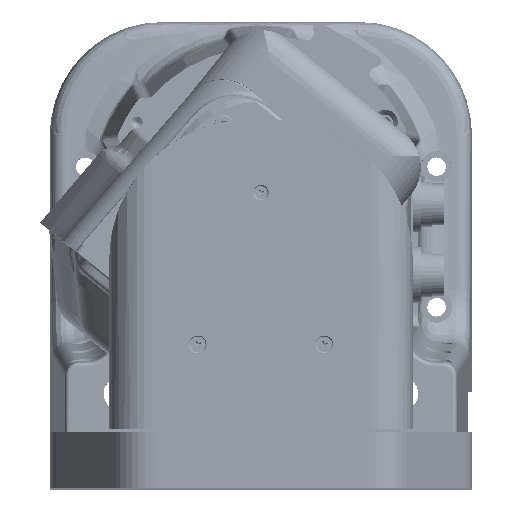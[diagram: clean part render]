
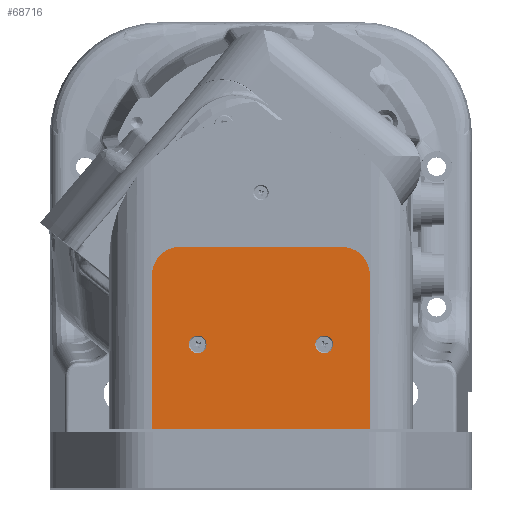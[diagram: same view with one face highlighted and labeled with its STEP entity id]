
A CAD part, top view. The second image highlights one B-rep face of the part: STEP entity #68716.
In plain terms, the highlighted planar face has unit normal (0, 0, 1) as drawn and (0, 0, -1) by its records, which use the part's own axes.
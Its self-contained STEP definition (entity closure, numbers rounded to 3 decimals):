
#40960 = AXIS2_PLACEMENT_3D ( 'NONE', #77332, #77333, #77334 ) ;
#40963 = AXIS2_PLACEMENT_3D ( 'NONE', #77389, #77390, #77391 ) ;
#40966 = AXIS2_PLACEMENT_3D ( 'NONE', #77454, #77455, #77456 ) ;
#40968 = AXIS2_PLACEMENT_3D ( 'NONE', #77486, #77487, #77488 ) ;
#40969 = AXIS2_PLACEMENT_3D ( 'NONE', #77513, #77514, #77515 ) ;
#40970 = AXIS2_PLACEMENT_3D ( 'NONE', #77518, #77519, #77520 ) ;
#63174 = CARTESIAN_POINT ( 'NONE',  ( 19.35, -54., -302.5 ) ) ;
#63198 = CARTESIAN_POINT ( 'NONE',  ( 25.65, -54., -302.5 ) ) ;
#63265 = CARTESIAN_POINT ( 'NONE',  ( 28.75, -19.3, -302.5 ) ) ;
#63365 = CARTESIAN_POINT ( 'NONE',  ( -19.35, -54., -302.5 ) ) ;
#63373 = CARTESIAN_POINT ( 'NONE',  ( -38.75, -29.3, -302.5 ) ) ;
#63513 = CARTESIAN_POINT ( 'NONE',  ( -25.65, -54., -302.5 ) ) ;
#63743 = CARTESIAN_POINT ( 'NONE',  ( -28.75, -19.3, -302.5 ) ) ;
#63839 = CARTESIAN_POINT ( 'NONE',  ( 38.75, -84., -302.5 ) ) ;
#63848 = CARTESIAN_POINT ( 'NONE',  ( -38.75, -84., -302.5 ) ) ;
#64116 = CARTESIAN_POINT ( 'NONE',  ( 38.75, -29.3, -302.5 ) ) ;
#68716 = ADVANCED_FACE ( 'NONE', ( #107296, #107298, #107300 ), #105350, .F. ) ;
#70262 = EDGE_CURVE ( 'NONE', #74980, #75075, #71709, .T. ) ;
#70276 = EDGE_CURVE ( 'NONE', #74622, #74581, #71724, .T. ) ;
#70290 = EDGE_CURVE ( 'NONE', #75143, #74988, #71741, .T. ) ;
#70297 = EDGE_CURVE ( 'NONE', #74988, #75112, #71751, .T. ) ;
#70303 = EDGE_CURVE ( 'NONE', #75112, #74712, #71761, .T. ) ;
#70309 = EDGE_CURVE ( 'NONE', #74712, #75208, #71767, .T. ) ;
#70315 = EDGE_CURVE ( 'NONE', #75208, #75140, #71777, .T. ) ;
#70319 = EDGE_CURVE ( 'NONE', #75140, #75143, #71785, .T. ) ;
#70321 = EDGE_CURVE ( 'NONE', #75075, #74980, #71788, .T. ) ;
#70323 = EDGE_CURVE ( 'NONE', #74581, #74622, #71790, .T. ) ;
#71709 = CIRCLE ( 'NONE', #40960, 3.15 ) ;
#71724 = CIRCLE ( 'NONE', #40963, 3.15 ) ;
#71741 = LINE ( 'NONE', #77435, #71742 ) ;
#71742 = VECTOR ( 'NONE', #77436, 1000. ) ;
#71751 = CIRCLE ( 'NONE', #40966, 10. ) ;
#71761 = LINE ( 'NONE', #77467, #71762 ) ;
#71762 = VECTOR ( 'NONE', #77468, 1000. ) ;
#71767 = CIRCLE ( 'NONE', #40968, 10. ) ;
#71777 = LINE ( 'NONE', #77499, #71778 ) ;
#71778 = VECTOR ( 'NONE', #77500, 1000. ) ;
#71785 = LINE ( 'NONE', #77507, #71786 ) ;
#71786 = VECTOR ( 'NONE', #77508, 1000. ) ;
#71788 = CIRCLE ( 'NONE', #40969, 3.15 ) ;
#71790 = CIRCLE ( 'NONE', #40970, 3.15 ) ;
#74581 = VERTEX_POINT ( 'NONE', #63174 ) ;
#74622 = VERTEX_POINT ( 'NONE', #63198 ) ;
#74712 = VERTEX_POINT ( 'NONE', #63265 ) ;
#74980 = VERTEX_POINT ( 'NONE', #63365 ) ;
#74988 = VERTEX_POINT ( 'NONE', #63373 ) ;
#75075 = VERTEX_POINT ( 'NONE', #63513 ) ;
#75112 = VERTEX_POINT ( 'NONE', #63743 ) ;
#75140 = VERTEX_POINT ( 'NONE', #63839 ) ;
#75143 = VERTEX_POINT ( 'NONE', #63848 ) ;
#75208 = VERTEX_POINT ( 'NONE', #64116 ) ;
#77332 = CARTESIAN_POINT ( 'NONE',  ( -22.5, -54., -302.5 ) ) ;
#77333 = DIRECTION ( 'NONE',  ( 0., 0., -1. ) ) ;
#77334 = DIRECTION ( 'NONE',  ( -1., 0., 0. ) ) ;
#77389 = CARTESIAN_POINT ( 'NONE',  ( 22.5, -54., -302.5 ) ) ;
#77390 = DIRECTION ( 'NONE',  ( 0., 0., -1. ) ) ;
#77391 = DIRECTION ( 'NONE',  ( -1., 0., 0. ) ) ;
#77435 = CARTESIAN_POINT ( 'NONE',  ( -38.75, -84., -302.5 ) ) ;
#77436 = DIRECTION ( 'NONE',  ( 0., 1., 0. ) ) ;
#77454 = CARTESIAN_POINT ( 'NONE',  ( -28.75, -29.3, -302.5 ) ) ;
#77455 = DIRECTION ( 'NONE',  ( 0., 0., -1. ) ) ;
#77456 = DIRECTION ( 'NONE',  ( 1., 0., 0. ) ) ;
#77467 = CARTESIAN_POINT ( 'NONE',  ( 28.75, -19.3, -302.5 ) ) ;
#77468 = DIRECTION ( 'NONE',  ( 1., 0., 0. ) ) ;
#77486 = CARTESIAN_POINT ( 'NONE',  ( 28.75, -29.3, -302.5 ) ) ;
#77487 = DIRECTION ( 'NONE',  ( 0., 0., -1. ) ) ;
#77488 = DIRECTION ( 'NONE',  ( -1., 0., 0. ) ) ;
#77499 = CARTESIAN_POINT ( 'NONE',  ( 38.75, -84., -302.5 ) ) ;
#77500 = DIRECTION ( 'NONE',  ( 0., -1., 0. ) ) ;
#77507 = CARTESIAN_POINT ( 'NONE',  ( 38.75, -84., -302.5 ) ) ;
#77508 = DIRECTION ( 'NONE',  ( -1., 0., 0. ) ) ;
#77513 = CARTESIAN_POINT ( 'NONE',  ( -22.5, -54., -302.5 ) ) ;
#77514 = DIRECTION ( 'NONE',  ( 0., 0., -1. ) ) ;
#77515 = DIRECTION ( 'NONE',  ( -1., 0., 0. ) ) ;
#77518 = CARTESIAN_POINT ( 'NONE',  ( 22.5, -54., -302.5 ) ) ;
#77519 = DIRECTION ( 'NONE',  ( 0., 0., -1. ) ) ;
#77520 = DIRECTION ( 'NONE',  ( -1., 0., 0. ) ) ;
#85433 = ORIENTED_EDGE ( 'NONE', *, *, #70321, .F. ) ;
#85437 = ORIENTED_EDGE ( 'NONE', *, *, #70262, .F. ) ;
#85439 = ORIENTED_EDGE ( 'NONE', *, *, #70323, .F. ) ;
#85442 = ORIENTED_EDGE ( 'NONE', *, *, #70276, .F. ) ;
#85445 = ORIENTED_EDGE ( 'NONE', *, *, #70290, .T. ) ;
#85448 = ORIENTED_EDGE ( 'NONE', *, *, #70297, .T. ) ;
#85451 = ORIENTED_EDGE ( 'NONE', *, *, #70303, .T. ) ;
#85455 = ORIENTED_EDGE ( 'NONE', *, *, #70309, .T. ) ;
#85458 = ORIENTED_EDGE ( 'NONE', *, *, #70315, .T. ) ;
#85462 = ORIENTED_EDGE ( 'NONE', *, *, #70319, .T. ) ;
#105350 = PLANE ( 'NONE',  #133827 ) ;
#105353 = CARTESIAN_POINT ( 'NONE',  ( -28.75, -29.3, -302.5 ) ) ;
#105355 = DIRECTION ( 'NONE',  ( 0., 0., 1. ) ) ;
#105357 = DIRECTION ( 'NONE',  ( 1., 0., 0. ) ) ;
#107296 = FACE_BOUND ( 'NONE', #149388, .T. ) ;
#107298 = FACE_BOUND ( 'NONE', #149385, .T. ) ;
#107300 = FACE_OUTER_BOUND ( 'NONE', #149383, .T. ) ;
#133827 = AXIS2_PLACEMENT_3D ( 'NONE', #105353, #105355, #105357 ) ;
#149383 = EDGE_LOOP ( 'NONE', ( #85445, #85448, #85451, #85455, #85458, #85462 ) ) ;
#149385 = EDGE_LOOP ( 'NONE', ( #85439, #85442 ) ) ;
#149388 = EDGE_LOOP ( 'NONE', ( #85433, #85437 ) ) ;
